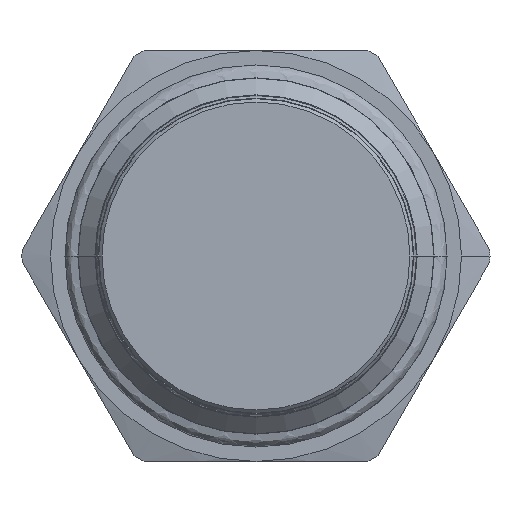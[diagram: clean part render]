
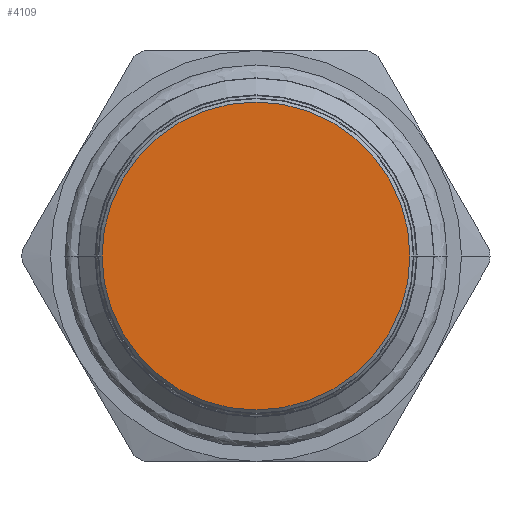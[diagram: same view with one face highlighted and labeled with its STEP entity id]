
A CAD part, front view. The second image highlights one B-rep face of the part: STEP entity #4109.
In plain terms, the highlighted planar face has unit normal (0, -1, 0).
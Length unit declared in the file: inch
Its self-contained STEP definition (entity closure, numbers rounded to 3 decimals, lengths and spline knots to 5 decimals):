
#1259=CARTESIAN_POINT('',(0.,-2.25,0.));
#1260=DIRECTION('',(0.,-1.,0.));
#1261=DIRECTION('',(1.,0.,0.));
#1262=AXIS2_PLACEMENT_3D('',#1259,#1260,#1261);
#1269=CARTESIAN_POINT('',(0.,-2.25,0.));
#1270=DIRECTION('',(0.,1.,0.));
#1271=DIRECTION('',(1.,0.,0.));
#1272=AXIS2_PLACEMENT_3D('',#1269,#1270,#1271);
#2201=CARTESIAN_POINT('',(0.7025,-2.25,0.));
#2202=CARTESIAN_POINT('',(-0.7025,-2.25,0.));
#2203=VERTEX_POINT('',#2201);
#2204=VERTEX_POINT('',#2202);
#4099=CARTESIAN_POINT('',(0.,-2.25,0.));
#4100=DIRECTION('',(0.,1.,0.));
#4101=DIRECTION('',(1.,0.,0.));
#4102=AXIS2_PLACEMENT_3D('',#4099,#4100,#4101);
#4103=PLANE('',#4102);
#4104=ORIENTED_EDGE('',*,*,#4089,.F.);
#4106=ORIENTED_EDGE('',*,*,#4105,.T.);
#4107=EDGE_LOOP('',(#4104,#4106));
#4108=FACE_OUTER_BOUND('',#4107,.F.);
#4109=ADVANCED_FACE('',(#4108),#4103,.F.);
#1263=CIRCLE('',#1262,0.7025);
#1273=CIRCLE('',#1272,0.7025);
#4089=EDGE_CURVE('',#2203,#2204,#1263,.T.);
#4105=EDGE_CURVE('',#2203,#2204,#1273,.T.);
